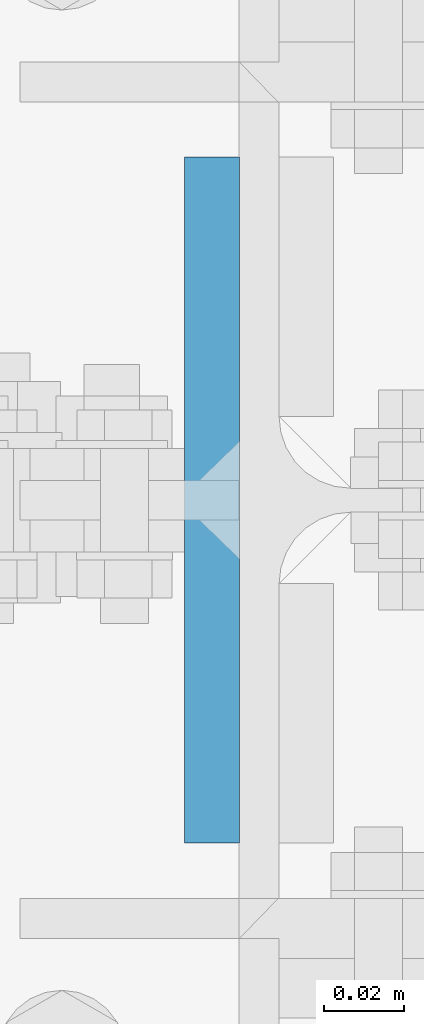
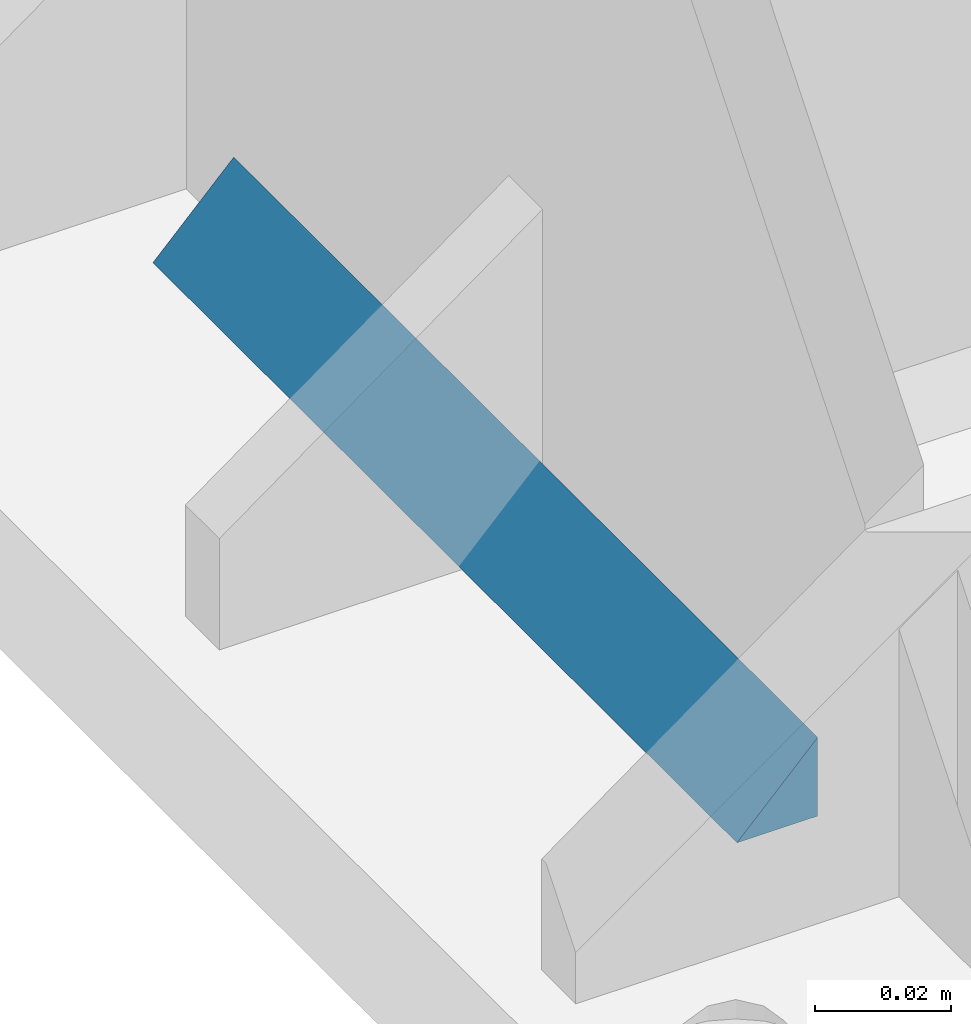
# One storey, part 40 of 251: 2 fasteners.
"""IFC4 building model written with IfcOpenShell, lengths in metres."""

from ifc_helpers import new_model, si_unit, frame, origin_with_axes, place, context, project, spatial, polyline, outline, extrude, type_object, element, save


model = new_model("IFC4")

# Units and contexts
model_context = context("Model", 3, precision=1e-05, world=origin_with_axes())
ifc_project = project(units=[si_unit("LENGTHUNIT", "METRE"), si_unit("AREAUNIT", "SQUARE_METRE"), si_unit("VOLUMEUNIT", "CUBIC_METRE"), si_unit("MASSUNIT", "GRAM", prefix="KILO"), si_unit("TIMEUNIT", "SECOND"), si_unit("PLANEANGLEUNIT", "RADIAN"), si_unit("SOLIDANGLEUNIT", "STERADIAN"), si_unit("THERMODYNAMICTEMPERATUREUNIT", "DEGREE_CELSIUS")], contexts=[model_context])

# Site, building, storey
placement_1 = place(None, origin_with_axes())
site = spatial("IfcSite", under=ifc_project, at=placement_1, Name="Italia", CompositionType="ELEMENT")
building = spatial("IfcBuilding", under=site, at=placement_1, Name="Deposito", CompositionType="ELEMENT")
storey = spatial("IfcBuildingStorey", under=building, at=placement_1, Name="Storey 0", CompositionType="ELEMENT", Elevation=0.0)

# Fasteners
fastener_type_1 = type_object("IfcFastenerType", Name="Collegamenti 0014_-001 0016_-054 0018_-056 0032_-002 0033_-058 0047_-003 0048_-060 0062_-004 0063_-005 0079_-008", PredefinedType="WELD")
placement_2 = place(placement_1, origin_with_axes())
fastener_1_placement = place(placement_2, origin_with_axes())
element("IfcFastener", 1, at=fastener_1_placement, inside=storey, type_object=fastener_type_1, Name="Collegamenti 0014_-001 0016_-054 0018_-056 0032_-002 0033_-058 0047_-003 0048_-060 0062_-004 0063_-005 0079_-008", context=model_context, shape_type="SweptSolid", body=[
    extrude(outline(polyline([(0.0, 0.0), (0.0137482, 0.0141734), (0.0137482, 0.0), (0.0, 0.0)])), frame((19.8913, 10.0861, 0.07495), z_axis=(0.0, -1.0, 0.0), x_axis=(1.0, 0.0, 0.0)), (0.0, 0.0, 1.0), 0.1721),
])
fastener_type_2 = type_object("IfcFastenerType", Name="Collegamenti 0014_-001 0016_-054 0018_-056 0032_-002 0033_-058 0047_-003 0048_-060 0062_-004 0063_-005 0079_-008", PredefinedType="WELD")
fastener_2_placement = place(placement_2, origin_with_axes())
element("IfcFastener", 2, at=fastener_2_placement, inside=storey, type_object=fastener_type_2, Name="Collegamenti 0014_-001 0016_-054 0018_-056 0032_-002 0033_-058 0047_-003 0048_-060 0062_-004 0063_-005 0079_-008", context=model_context, shape_type="SweptSolid", body=[
    extrude(outline(polyline([(0.0, 0.0), (0.0137482, 0.0141734), (0.0137482, 0.0), (0.0, 0.0)])), frame((19.8913, 10.0861, 0.07495), z_axis=(0.0, -1.0, 0.0), x_axis=(1.0, 0.0, 0.0)), (0.0, 0.0, 1.0), 0.1721),
])

save(model, "model.ifc")
